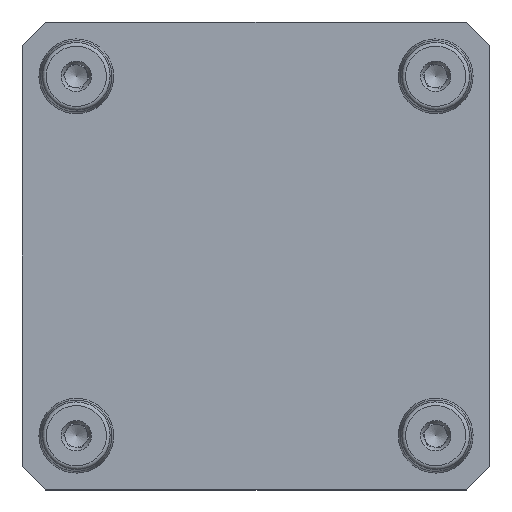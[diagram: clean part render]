
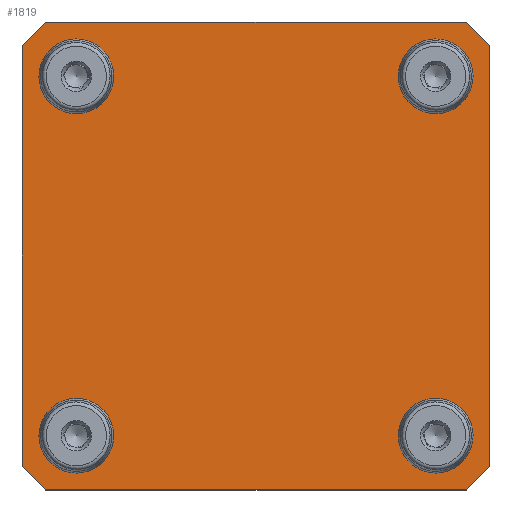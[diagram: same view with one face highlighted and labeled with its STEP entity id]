
A CAD part, front view. The second image highlights one B-rep face of the part: STEP entity #1819.
In plain terms, the highlighted planar face has unit normal (0, -1, 0).
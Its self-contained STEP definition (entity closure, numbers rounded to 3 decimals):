
#13 = VERTEX_POINT ( 'NONE', #1640 ) ;
#46 = DIRECTION ( 'NONE',  ( 0., 0., 1. ) ) ;
#106 = DIRECTION ( 'NONE',  ( 0., 0., -1. ) ) ;
#109 = ORIENTED_EDGE ( 'NONE', *, *, #5983, .F. ) ;
#132 = DIRECTION ( 'NONE',  ( 1., 0., 0. ) ) ;
#257 = DIRECTION ( 'NONE',  ( 0.707, 0., -0.707 ) ) ;
#260 = CARTESIAN_POINT ( 'NONE',  ( 62.5, -25., -56.15 ) ) ;
#279 = VERTEX_POINT ( 'NONE', #2612 ) ;
#297 = FACE_BOUND ( 'NONE', #730, .T. ) ;
#354 = FACE_BOUND ( 'NONE', #6543, .T. ) ;
#367 = EDGE_CURVE ( 'NONE', #279, #13, #2138, .T. ) ;
#423 = EDGE_LOOP ( 'NONE', ( #5620 ) ) ;
#439 = ORIENTED_EDGE ( 'NONE', *, *, #2931, .F. ) ;
#528 = VERTEX_POINT ( 'NONE', #695 ) ;
#651 = CARTESIAN_POINT ( 'NONE',  ( 48., -25., 39.99 ) ) ;
#653 = ORIENTED_EDGE ( 'NONE', *, *, #5243, .F. ) ;
#658 = DIRECTION ( 'NONE',  ( 0., -1., 0. ) ) ;
#695 = CARTESIAN_POINT ( 'NONE',  ( -56.15, -25., -62.5 ) ) ;
#700 = CARTESIAN_POINT ( 'NONE',  ( -48., -25., 48. ) ) ;
#730 = EDGE_LOOP ( 'NONE', ( #653 ) ) ;
#808 = AXIS2_PLACEMENT_3D ( 'NONE', #1638, #1169, #3631 ) ;
#835 = LINE ( 'NONE', #1695, #4553 ) ;
#999 = EDGE_CURVE ( 'NONE', #4921, #4921, #3782, .T. ) ;
#1045 = CARTESIAN_POINT ( 'NONE',  ( 56.15, -25., 62.5 ) ) ;
#1166 = DIRECTION ( 'NONE',  ( 0., 0., -1. ) ) ;
#1169 = DIRECTION ( 'NONE',  ( 0., -1., 0. ) ) ;
#1193 = DIRECTION ( 'NONE',  ( 0., -1., 0. ) ) ;
#1233 = AXIS2_PLACEMENT_3D ( 'NONE', #4865, #1310, #2355 ) ;
#1310 = DIRECTION ( 'NONE',  ( 0., -1., 0. ) ) ;
#1363 = ORIENTED_EDGE ( 'NONE', *, *, #2025, .F. ) ;
#1434 = CIRCLE ( 'NONE', #5065, 8.01 ) ;
#1533 = ORIENTED_EDGE ( 'NONE', *, *, #3084, .F. ) ;
#1638 = CARTESIAN_POINT ( 'NONE',  ( 48., -25., 48. ) ) ;
#1640 = CARTESIAN_POINT ( 'NONE',  ( 56.15, -25., 62.5 ) ) ;
#1641 = LINE ( 'NONE', #6249, #6119 ) ;
#1665 = LINE ( 'NONE', #6175, #3779 ) ;
#1695 = CARTESIAN_POINT ( 'NONE',  ( 56.15, -25., -62.5 ) ) ;
#1819 = ADVANCED_FACE ( 'NONE', ( #297, #3836, #354, #2396, #4380 ), #3393, .T. ) ;
#1862 = VERTEX_POINT ( 'NONE', #4326 ) ;
#1975 = ORIENTED_EDGE ( 'NONE', *, *, #4850, .F. ) ;
#2025 = EDGE_CURVE ( 'NONE', #528, #1862, #1641, .T. ) ;
#2138 = LINE ( 'NONE', #1045, #3401 ) ;
#2260 = DIRECTION ( 'NONE',  ( 0., 0., -1. ) ) ;
#2261 = ORIENTED_EDGE ( 'NONE', *, *, #3179, .F. ) ;
#2276 = CARTESIAN_POINT ( 'NONE',  ( -56.15, -25., 62.5 ) ) ;
#2355 = DIRECTION ( 'NONE',  ( 0., 0., -1. ) ) ;
#2396 = FACE_BOUND ( 'NONE', #423, .T. ) ;
#2410 = LINE ( 'NONE', #2276, #6138 ) ;
#2412 = DIRECTION ( 'NONE',  ( -1., 0., 0. ) ) ;
#2441 = CARTESIAN_POINT ( 'NONE',  ( -56.15, -25., -62.5 ) ) ;
#2535 = DIRECTION ( 'NONE',  ( 0., 0., -1. ) ) ;
#2612 = CARTESIAN_POINT ( 'NONE',  ( -56.15, -25., 62.5 ) ) ;
#2621 = EDGE_LOOP ( 'NONE', ( #1363, #5744, #2261, #3903, #109, #5435, #1533, #439 ) ) ;
#2749 = CARTESIAN_POINT ( 'NONE',  ( -48., -25., -56.01 ) ) ;
#2931 = EDGE_CURVE ( 'NONE', #1862, #4594, #5215, .T. ) ;
#2987 = DIRECTION ( 'NONE',  ( 0., -1., 0. ) ) ;
#2988 = VERTEX_POINT ( 'NONE', #651 ) ;
#3010 = EDGE_CURVE ( 'NONE', #3891, #3984, #1665, .T. ) ;
#3084 = EDGE_CURVE ( 'NONE', #4594, #279, #2410, .T. ) ;
#3140 = EDGE_CURVE ( 'NONE', #2988, #2988, #3678, .T. ) ;
#3179 = EDGE_CURVE ( 'NONE', #3984, #3472, #835, .T. ) ;
#3237 = CARTESIAN_POINT ( 'NONE',  ( 62.5, -25., 56.15 ) ) ;
#3361 = LINE ( 'NONE', #4819, #5136 ) ;
#3393 = PLANE ( 'NONE',  #1233 ) ;
#3401 = VECTOR ( 'NONE', #132, 1000. ) ;
#3472 = VERTEX_POINT ( 'NONE', #3620 ) ;
#3620 = CARTESIAN_POINT ( 'NONE',  ( 56.15, -25., -62.5 ) ) ;
#3631 = DIRECTION ( 'NONE',  ( 0., 0., -1. ) ) ;
#3671 = DIRECTION ( 'NONE',  ( -0.707, 0., 0.707 ) ) ;
#3678 = CIRCLE ( 'NONE', #808, 8.01 ) ;
#3730 = EDGE_CURVE ( 'NONE', #3472, #528, #5022, .T. ) ;
#3731 = VERTEX_POINT ( 'NONE', #5786 ) ;
#3779 = VECTOR ( 'NONE', #1166, 1000. ) ;
#3782 = CIRCLE ( 'NONE', #3892, 8.01 ) ;
#3836 = FACE_BOUND ( 'NONE', #4803, .T. ) ;
#3891 = VERTEX_POINT ( 'NONE', #3237 ) ;
#3892 = AXIS2_PLACEMENT_3D ( 'NONE', #700, #1193, #106 ) ;
#3903 = ORIENTED_EDGE ( 'NONE', *, *, #3010, .F. ) ;
#3984 = VERTEX_POINT ( 'NONE', #260 ) ;
#4049 = CARTESIAN_POINT ( 'NONE',  ( 48., -25., -48. ) ) ;
#4310 = DIRECTION ( 'NONE',  ( 0.707, 0., 0.707 ) ) ;
#4320 = CIRCLE ( 'NONE', #5700, 8.01 ) ;
#4326 = CARTESIAN_POINT ( 'NONE',  ( -62.5, -25., -56.15 ) ) ;
#4331 = CARTESIAN_POINT ( 'NONE',  ( -48., -25., -48. ) ) ;
#4380 = FACE_OUTER_BOUND ( 'NONE', #2621, .T. ) ;
#4432 = CARTESIAN_POINT ( 'NONE',  ( -48., -25., 39.99 ) ) ;
#4553 = VECTOR ( 'NONE', #6271, 1000. ) ;
#4594 = VERTEX_POINT ( 'NONE', #5158 ) ;
#4622 = CARTESIAN_POINT ( 'NONE',  ( -62.5, -25., 56.15 ) ) ;
#4803 = EDGE_LOOP ( 'NONE', ( #5075 ) ) ;
#4819 = CARTESIAN_POINT ( 'NONE',  ( 62.5, -25., 56.15 ) ) ;
#4850 = EDGE_CURVE ( 'NONE', #3731, #3731, #4320, .T. ) ;
#4865 = CARTESIAN_POINT ( 'NONE',  ( 0., -25., 0. ) ) ;
#4921 = VERTEX_POINT ( 'NONE', #4432 ) ;
#5022 = LINE ( 'NONE', #2441, #5474 ) ;
#5065 = AXIS2_PLACEMENT_3D ( 'NONE', #4331, #658, #2260 ) ;
#5075 = ORIENTED_EDGE ( 'NONE', *, *, #3140, .F. ) ;
#5136 = VECTOR ( 'NONE', #257, 1000. ) ;
#5158 = CARTESIAN_POINT ( 'NONE',  ( -62.5, -25., 56.15 ) ) ;
#5215 = LINE ( 'NONE', #4622, #5373 ) ;
#5237 = VERTEX_POINT ( 'NONE', #2749 ) ;
#5243 = EDGE_CURVE ( 'NONE', #5237, #5237, #1434, .T. ) ;
#5373 = VECTOR ( 'NONE', #46, 1000. ) ;
#5435 = ORIENTED_EDGE ( 'NONE', *, *, #367, .F. ) ;
#5474 = VECTOR ( 'NONE', #2412, 1000. ) ;
#5620 = ORIENTED_EDGE ( 'NONE', *, *, #999, .F. ) ;
#5700 = AXIS2_PLACEMENT_3D ( 'NONE', #4049, #2987, #2535 ) ;
#5744 = ORIENTED_EDGE ( 'NONE', *, *, #3730, .F. ) ;
#5786 = CARTESIAN_POINT ( 'NONE',  ( 48., -25., -56.01 ) ) ;
#5983 = EDGE_CURVE ( 'NONE', #13, #3891, #3361, .T. ) ;
#6119 = VECTOR ( 'NONE', #3671, 1000. ) ;
#6138 = VECTOR ( 'NONE', #4310, 1000. ) ;
#6175 = CARTESIAN_POINT ( 'NONE',  ( 62.5, -25., -56.15 ) ) ;
#6249 = CARTESIAN_POINT ( 'NONE',  ( -62.5, -25., -56.15 ) ) ;
#6271 = DIRECTION ( 'NONE',  ( -0.707, 0., -0.707 ) ) ;
#6543 = EDGE_LOOP ( 'NONE', ( #1975 ) ) ;
